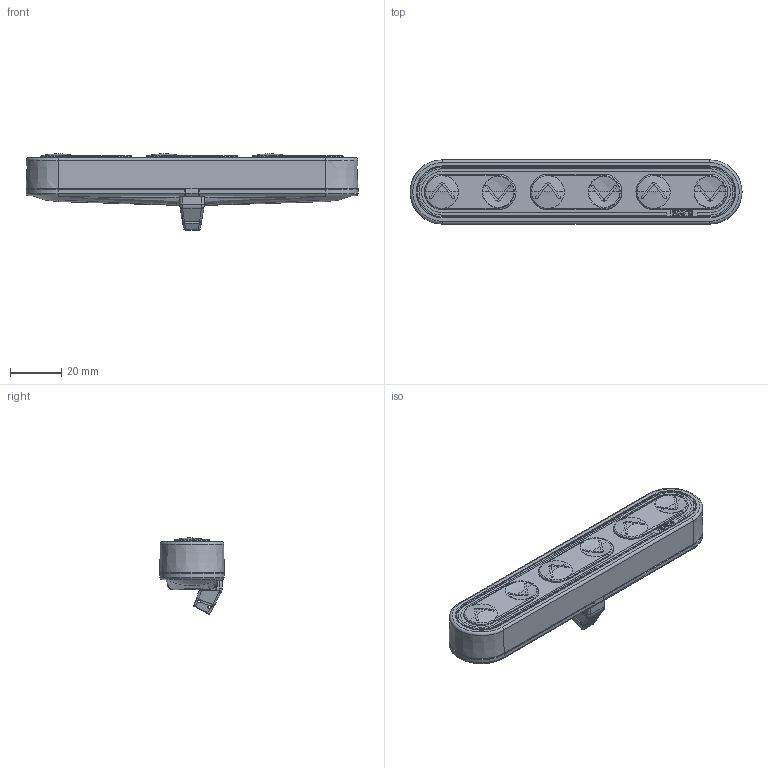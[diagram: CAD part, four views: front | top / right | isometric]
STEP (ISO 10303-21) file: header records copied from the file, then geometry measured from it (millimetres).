
FILE_DESCRIPTION((''),'2;1');
FILE_NAME('DPF3K_CREO','2015-06-16T',('mos'),(''),'CREO PARAMETRIC BY PTC INC, 2014500','CREO PARAMETRIC BY PTC INC, 2014500','');
FILE_SCHEMA(('CONFIG_CONTROL_DESIGN'));
Length unit declared in the file: millimetre
Products named in the file (1): DPF3K_CREO
Bounding box: 130.19 x 25.19 x 29.94 mm (x, y, z)
Volume: 52871.8 mm3; surface area: 13822.8 mm2
Topology: 1 solids, 1 shells, 604 faces, 1763 edges, 1168 vertices
Faces by surface type: plane 338, cylinder 118, bspline 80, torus 26, sphere 24, extrusion 12, cone 6
Entity records: 24367 total; most frequent: CARTESIAN_POINT 8968, ORIENTED_EDGE 3498, DIRECTION 2737, EDGE_CURVE 1749, VERTEX_POINT 1168, VECTOR 973, LINE 961, AXIS2_PLACEMENT_3D 882
